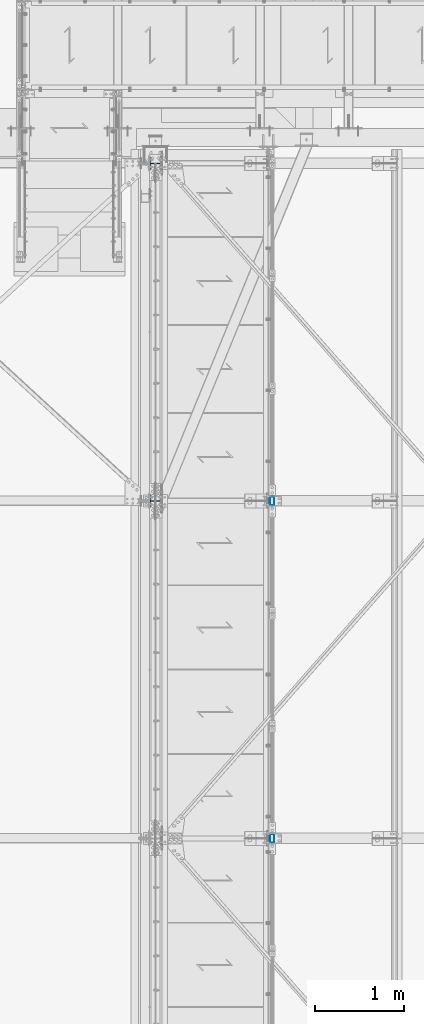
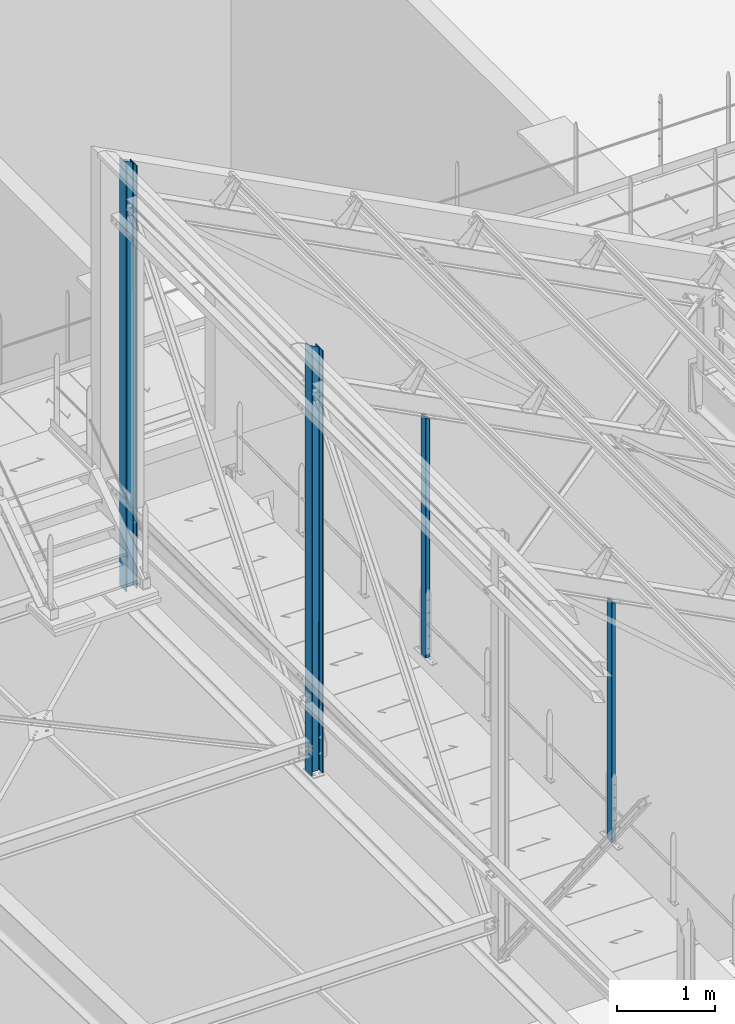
# One storey, part 6 of 362: 4 columns, 4 elements without a shape of their own.
"""IFC2X3 building model written with IfcOpenShell, lengths in millimetres."""

from ifc_helpers import new_model, si_unit, frame, origin_with_axes, origin_2d_with_axis, place, context, subcontext, project, spatial, hollow_rectangle, i_section, extrude, clip, halfspace, material, type_object, element, aggregate, save


model = new_model("IFC2X3")

# Units and contexts
model_context = context("Model", 3, precision=1e-05, world=origin_with_axes())
body_context = subcontext(model_context, "Body", "Model", "MODEL_VIEW")
ifc_project = project(units=[si_unit("LENGTHUNIT", "METRE", prefix="MILLI"), si_unit("AREAUNIT", "SQUARE_METRE"), si_unit("VOLUMEUNIT", "CUBIC_METRE"), si_unit("MASSUNIT", "GRAM", prefix="KILO"), si_unit("TIMEUNIT", "SECOND"), si_unit("PLANEANGLEUNIT", "RADIAN"), si_unit("SOLIDANGLEUNIT", "STERADIAN"), si_unit("THERMODYNAMICTEMPERATUREUNIT", "DEGREE_CELSIUS"), si_unit("LUMINOUSINTENSITYUNIT", "LUMEN")], contexts=[model_context])

# Site, building, storey
site_placement = place(None, origin_with_axes())
site = spatial("IfcSite", under=ifc_project, at=site_placement, Name="Undefined", CompositionType="ELEMENT")
building_placement = place(site_placement, origin_with_axes())
building = spatial("IfcBuilding", under=site, at=building_placement, Name="Undefined", CompositionType="ELEMENT")
storey_placement = place(building_placement, origin_with_axes())
storey = spatial("IfcBuildingStorey", under=building, at=storey_placement, Name="Undefined", CompositionType="ELEMENT", Elevation=0.0)

# Assembly, column
assembly_1_placement = place(storey_placement, origin_with_axes())
assembly_1 = element("IfcElementAssembly", 1, at=assembly_1_placement, inside=storey, Name="MONTANT", AssemblyPlace="NOTDEFINED", PredefinedType="NOTDEFINED")
ifc_material_1 = material(Name="Undefined/S275-E28")
column_type_1 = type_object("IfcColumnType", Name="HEA140", PredefinedType="NOTDEFINED")
column_1_placement = place(assembly_1_placement, frame((12680.0, 15200.0, 7260.0), z_axis=(0.0, 0.0, 1.0), x_axis=(-1.0, 0.0, 0.0)))
column_1 = element("IfcColumn", 2, at=column_1_placement, type_object=column_type_1, material=ifc_material_1, Name="MONTANT", ObjectType="HEA140", context=body_context, shape_type="Clipping", body=[
    clip(extrude(i_section(OverallWidth=140.0, OverallDepth=133.0, WebThickness=5.5, FlangeThickness=8.5, FilletRadius=12.0, at=origin_2d_with_axis()), frame((0.0, 0.0, 5353.83208547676), z_axis=(0.0, 0.0, -1.0), x_axis=(0.0, 1.0, 0.0)), (0.0, 0.0, 1.0), 5353.83), halfspace(frame((-66.5, 70.0, 5272.97130380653), z_axis=(-0.463528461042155, -7.08866187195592e-09, 0.886082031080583), x_axis=(0.886082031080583, 0.0, 0.463528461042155)), False)),
])
aggregate(assembly_1, [column_1])

assembly_2_placement = place(storey_placement, origin_with_axes())
assembly_2 = element("IfcElementAssembly", 3, at=assembly_2_placement, inside=storey, Name="MONTANT", AssemblyPlace="NOTDEFINED", PredefinedType="NOTDEFINED")
column_2_placement = place(assembly_2_placement, frame((12680.0, 11400.0, 7260.0), z_axis=(0.0, 0.0, 1.0), x_axis=(-1.0, 0.0, 0.0)))
column_2 = element("IfcColumn", 4, at=column_2_placement, type_object=column_type_1, material=ifc_material_1, Name="MONTANT", ObjectType="HEA140", context=body_context, shape_type="Clipping", body=[
    clip(extrude(i_section(OverallWidth=140.0, OverallDepth=133.0, WebThickness=5.5, FlangeThickness=8.5, FilletRadius=12.0, at=origin_2d_with_axis()), frame((0.0, 0.0, 5353.83208547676), z_axis=(0.0, 0.0, -1.0), x_axis=(0.0, 1.0, 0.0)), (0.0, 0.0, 1.0), 5353.83), halfspace(frame((-66.5, 70.0, 5272.97130380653), z_axis=(-0.463528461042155, -7.08866187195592e-09, 0.886082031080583), x_axis=(0.886082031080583, 0.0, 0.463528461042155)), False)),
])
aggregate(assembly_2, [column_2])

assembly_3_placement = place(storey_placement, origin_with_axes())
assembly_3 = element("IfcElementAssembly", 5, at=assembly_3_placement, inside=storey, AssemblyPlace="NOTDEFINED", PredefinedType="NOTDEFINED")
ifc_material_2 = material(Name="Undefined/S235-E24")
column_type_2 = type_object("IfcColumnType", Name="TUBE-R-100*50*3", PredefinedType="NOTDEFINED")
column_3_placement = place(assembly_3_placement, frame((13993.9998855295, 11400.0, 8250.0), z_axis=(0.0, 0.0, 1.0), x_axis=(0.0, -1.0, 0.0)))
column_3 = element("IfcColumn", 6, at=column_3_placement, type_object=column_type_2, material=ifc_material_2, Name="SUSPENTE", ObjectType="TUBE-R-100*50*3", context=body_context, shape_type="Clipping", body=[
    clip(extrude(hollow_rectangle(XDim=50.0, YDim=100.0, WallThickness=3.0, InnerFilletRadius=3.0, OuterFilletRadius=6.0, at=origin_2d_with_axis()), frame((0.0, 0.0, 3000.30494892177), z_axis=(0.0, 0.0, -1.0), x_axis=(0.0, 1.0, 0.0)), (0.0, 0.0, 1.0), 3000.3), halfspace(frame((0.0, -63.5993262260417, 3020.36630164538), z_axis=(0.0, -0.46352846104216, -0.886082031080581), x_axis=(1.0, 0.0, 0.0)), True)),
])
aggregate(assembly_3, [column_3])

assembly_4_placement = place(storey_placement, origin_with_axes())
assembly_4 = element("IfcElementAssembly", 7, at=assembly_4_placement, inside=storey, AssemblyPlace="NOTDEFINED", PredefinedType="NOTDEFINED")
column_4_placement = place(assembly_4_placement, frame((13993.9998855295, 7600.0, 8250.0), z_axis=(0.0, 0.0, 1.0), x_axis=(0.0, -1.0, 0.0)))
column_4 = element("IfcColumn", 8, at=column_4_placement, type_object=column_type_2, material=ifc_material_2, Name="SUSPENTE", ObjectType="TUBE-R-100*50*3", context=body_context, shape_type="Clipping", body=[
    clip(extrude(hollow_rectangle(XDim=50.0, YDim=100.0, WallThickness=3.0, InnerFilletRadius=3.0, OuterFilletRadius=6.0, at=origin_2d_with_axis()), frame((0.0, 0.0, 3000.30494892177), z_axis=(0.0, 0.0, -1.0), x_axis=(0.0, 1.0, 0.0)), (0.0, 0.0, 1.0), 3000.3), halfspace(frame((0.0, -63.5993262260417, 3020.36630164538), z_axis=(0.0, -0.46352846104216, -0.886082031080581), x_axis=(1.0, 0.0, 0.0)), True)),
])
aggregate(assembly_4, [column_4])

save(model, "model.ifc")
